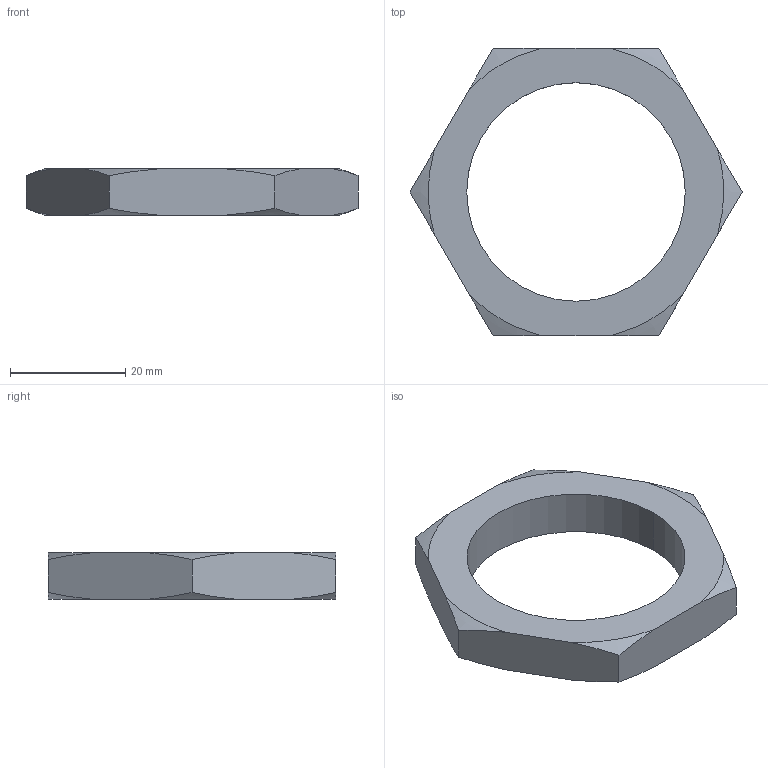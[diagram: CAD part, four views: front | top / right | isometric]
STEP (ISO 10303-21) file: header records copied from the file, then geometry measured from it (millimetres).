
FILE_DESCRIPTION(('CATIA V5 STEP Exchange'),'2;1');
FILE_NAME('W:\LIBRERIA TECAPRES®\DIBUJOS STRACK 2012\BRIDAS\FR\FR 38.stp','2013-04-09T06:49:51+00:00',('none'),('none'),'CATIA Version 5 Release 17 (IN-10)','CATIA V5 STEP AP203','none');
FILE_SCHEMA(('CONFIG_CONTROL_DESIGN'));
Length unit declared in the file: millimetre
Products named in the file (1): C:\Documents and Settings\Luisg\Mis documentos\Dibujos catálogo 2009\MICRO25x25
Bounding box: 57.73 x 50 x 8 mm (x, y, z)
Volume: 8163.7 mm3; surface area: 4319 mm2
Topology: 1 solids, 1 shells, 22 faces, 60 edges, 40 vertices
Faces by surface type: revolution 12, plane 8, cylinder 2
Entity records: 925 total; most frequent: CARTESIAN_POINT 434, ORIENTED_EDGE 120, EDGE_CURVE 60, DIRECTION 44, VERTEX_POINT 40, B_SPLINE_CURVE_WITH_KNOTS 38, EDGE_LOOP 24, ADVANCED_FACE 22
